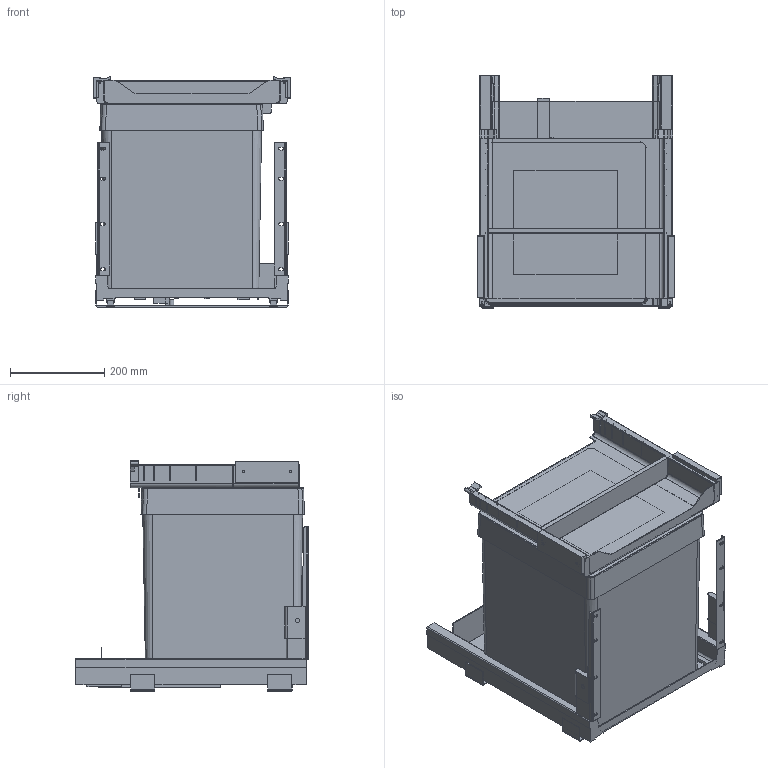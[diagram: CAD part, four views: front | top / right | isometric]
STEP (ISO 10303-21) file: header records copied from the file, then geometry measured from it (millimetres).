
FILE_DESCRIPTION(('STEP AP242'),'1');
FILE_NAME('OPO_53.433.06.stp','2025-11-08T20:30:14',(' '),(' '),'Spatial InterOp 3D',' ',' ');
FILE_SCHEMA(('AP242_MANAGED_MODEL_BASED_3D_ENGINEERING_MIM_LF {1 0 10303 442 1 1 4}'));
Length unit declared in the file: millimetre
Products named in the file (1): 1
Bounding box: 418 x 492 x 487.85 mm (x, y, z)
Volume: 47951120.5 mm3; surface area: 1575813.7 mm2
Topology: 1 solids, 1 shells, 733 faces, 2078 edges, 1348 vertices
Faces by surface type: plane 389, cylinder 284, sphere 20, cone 20, torus 16, bspline 4
Entity records: 30475 total; most frequent: CARTESIAN_POINT 4885, DIRECTION 4170, ORIENTED_EDGE 4156, EDGE_CURVE 2078, LINE 1434, VECTOR 1434, AXIS2_PLACEMENT_3D 1368, VERTEX_POINT 1348
